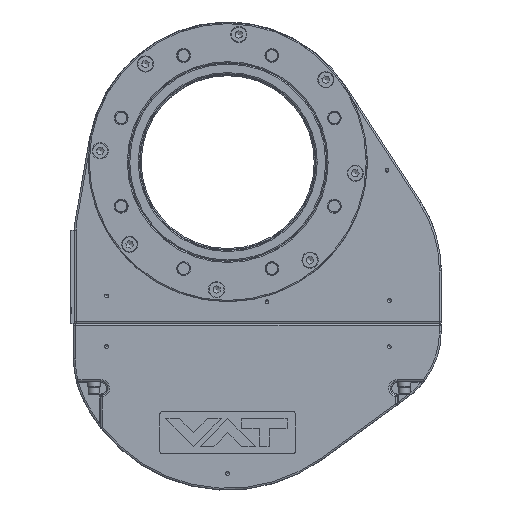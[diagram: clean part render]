
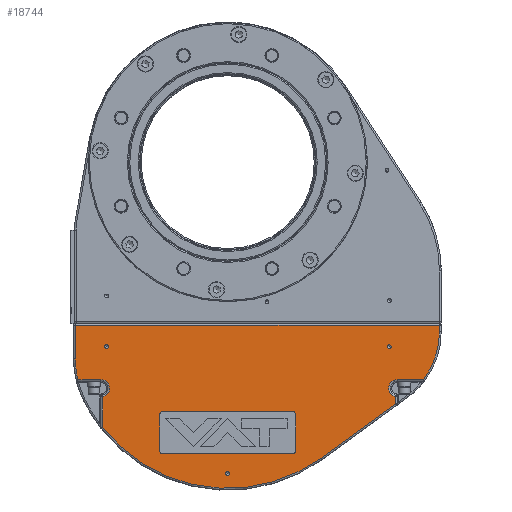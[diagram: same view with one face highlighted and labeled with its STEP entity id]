
A CAD part, top view. The second image highlights one B-rep face of the part: STEP entity #18744.
In plain terms, the highlighted planar face has unit normal (0, 0, 1) as drawn and (0, 0, -1) by its records, which use the part's own axes.
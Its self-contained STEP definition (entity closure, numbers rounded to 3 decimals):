
#10239=LINE('',#73633,#13104);
#10240=LINE('',#73636,#13105);
#10241=LINE('',#73638,#13106);
#10242=LINE('',#73642,#13107);
#10243=LINE('',#73646,#13108);
#10244=LINE('',#73650,#13109);
#10245=LINE('',#73652,#13110);
#10246=LINE('',#73656,#13111);
#13104=VECTOR('',#57587,1.);
#13105=VECTOR('',#57588,1.);
#13106=VECTOR('',#57589,1.);
#13107=VECTOR('',#57592,1.);
#13108=VECTOR('',#57595,1.);
#13109=VECTOR('',#57598,1.);
#13110=VECTOR('',#57599,1.);
#13111=VECTOR('',#57602,1.);
#16454=FACE_BOUND('',#24492,.T.);
#16455=FACE_BOUND('',#24493,.T.);
#16456=FACE_BOUND('',#24494,.T.);
#16457=FACE_BOUND('',#24495,.T.);
#18744=ADVANCED_FACE('',(#16454,#16455,#16456,#16457),#20441,.T.);
#20441=PLANE('',#50142);
#24492=EDGE_LOOP('',(#31954,#31955,#31956,#31957,#31958,#31959,#31960,#31961,
#31962,#31963,#31964,#31965,#31966));
#24493=EDGE_LOOP('',(#31967));
#24494=EDGE_LOOP('',(#31968));
#24495=EDGE_LOOP('',(#31969));
#31954=ORIENTED_EDGE('',*,*,#43870,.T.);
#31955=ORIENTED_EDGE('',*,*,#43871,.T.);
#31956=ORIENTED_EDGE('',*,*,#43872,.T.);
#31957=ORIENTED_EDGE('',*,*,#43873,.T.);
#31958=ORIENTED_EDGE('',*,*,#43874,.T.);
#31959=ORIENTED_EDGE('',*,*,#43875,.T.);
#31960=ORIENTED_EDGE('',*,*,#43876,.T.);
#31961=ORIENTED_EDGE('',*,*,#43877,.T.);
#31962=ORIENTED_EDGE('',*,*,#43878,.T.);
#31963=ORIENTED_EDGE('',*,*,#43879,.T.);
#31964=ORIENTED_EDGE('',*,*,#43880,.T.);
#31965=ORIENTED_EDGE('',*,*,#43881,.T.);
#31966=ORIENTED_EDGE('',*,*,#43882,.T.);
#31967=ORIENTED_EDGE('',*,*,#43883,.T.);
#31968=ORIENTED_EDGE('',*,*,#43884,.T.);
#31969=ORIENTED_EDGE('',*,*,#43885,.T.);
#39122=VERTEX_POINT('',#73634);
#39123=VERTEX_POINT('',#73635);
#39124=VERTEX_POINT('',#73637);
#39125=VERTEX_POINT('',#73639);
#39126=VERTEX_POINT('',#73641);
#39127=VERTEX_POINT('',#73643);
#39128=VERTEX_POINT('',#73645);
#39129=VERTEX_POINT('',#73647);
#39130=VERTEX_POINT('',#73649);
#39131=VERTEX_POINT('',#73651);
#39132=VERTEX_POINT('',#73653);
#39133=VERTEX_POINT('',#73655);
#39134=VERTEX_POINT('',#73657);
#39135=VERTEX_POINT('',#73660);
#39136=VERTEX_POINT('',#73662);
#39137=VERTEX_POINT('',#73664);
#43870=EDGE_CURVE('',#39122,#39123,#10239,.T.);
#43871=EDGE_CURVE('',#39123,#39124,#10240,.T.);
#43872=EDGE_CURVE('',#39124,#39125,#10241,.T.);
#43873=EDGE_CURVE('',#39125,#39126,#47245,.T.);
#43874=EDGE_CURVE('',#39126,#39127,#10242,.T.);
#43875=EDGE_CURVE('',#39127,#39128,#47246,.T.);
#43876=EDGE_CURVE('',#39128,#39129,#10243,.T.);
#43877=EDGE_CURVE('',#39129,#39130,#47247,.T.);
#43878=EDGE_CURVE('',#39130,#39131,#10244,.T.);
#43879=EDGE_CURVE('',#39131,#39132,#10245,.T.);
#43880=EDGE_CURVE('',#39132,#39133,#47248,.T.);
#43881=EDGE_CURVE('',#39133,#39134,#10246,.T.);
#43882=EDGE_CURVE('',#39134,#39122,#47249,.T.);
#43883=EDGE_CURVE('',#39135,#39135,#47250,.T.);
#43884=EDGE_CURVE('',#39136,#39136,#47251,.T.);
#43885=EDGE_CURVE('',#39137,#39137,#47252,.T.);
#47245=CIRCLE('',#50134,78.5);
#47246=CIRCLE('',#50135,7.5);
#47247=CIRCLE('',#50136,137.8);
#47248=CIRCLE('',#50137,7.5);
#47249=CIRCLE('',#50138,68.5);
#47250=CIRCLE('',#50139,1.65);
#47251=CIRCLE('',#50140,1.65);
#47252=CIRCLE('',#50141,1.65);
#50134=AXIS2_PLACEMENT_3D('',#73640,#57590,#57591);
#50135=AXIS2_PLACEMENT_3D('',#73644,#57593,#57594);
#50136=AXIS2_PLACEMENT_3D('',#73648,#57596,#57597);
#50137=AXIS2_PLACEMENT_3D('',#73654,#57600,#57601);
#50138=AXIS2_PLACEMENT_3D('',#73658,#57603,#57604);
#50139=AXIS2_PLACEMENT_3D('',#73659,#57605,#57606);
#50140=AXIS2_PLACEMENT_3D('',#73661,#57607,#57608);
#50141=AXIS2_PLACEMENT_3D('',#73663,#57609,#57610);
#50142=AXIS2_PLACEMENT_3D('',#73665,#57611,#57612);
#57587=DIRECTION('',(0.,1.,0.));
#57588=DIRECTION('',(1.,0.,0.));
#57589=DIRECTION('',(0.,-1.,0.));
#57590=DIRECTION('',(0.,0.,-1.));
#57591=DIRECTION('',(-1.,0.,0.));
#57592=DIRECTION('',(-1.,0.,0.));
#57593=DIRECTION('',(0.,0.,1.));
#57594=DIRECTION('',(-1.,0.,0.));
#57595=DIRECTION('',(0.,-1.,0.));
#57596=DIRECTION('',(0.,0.,-1.));
#57597=DIRECTION('',(-1.,0.,0.));
#57598=DIRECTION('',(-0.809,0.588,0.));
#57599=DIRECTION('',(0.,1.,0.));
#57600=DIRECTION('',(0.,0.,1.));
#57601=DIRECTION('',(-1.,0.,0.));
#57602=DIRECTION('',(-1.,0.,0.));
#57603=DIRECTION('',(0.,0.,-1.));
#57604=DIRECTION('',(-1.,0.,0.));
#57605=DIRECTION('',(0.,0.,1.));
#57606=DIRECTION('',(1.,0.,0.));
#57607=DIRECTION('',(0.,0.,1.));
#57608=DIRECTION('',(1.,0.,0.));
#57609=DIRECTION('',(0.,0.,1.));
#57610=DIRECTION('',(1.,0.,0.));
#57611=DIRECTION('',(0.,0.,-1.));
#57612=DIRECTION('',(-1.,0.,0.));
#73633=CARTESIAN_POINT('',(-183.5,-5.,0.));
#73634=CARTESIAN_POINT('',(-183.5,-7.107,0.));
#73635=CARTESIAN_POINT('',(-183.5,-1.5,0.));
#73636=CARTESIAN_POINT('',(0.,-1.5,0.));
#73637=CARTESIAN_POINT('',(132.,-1.5,0.));
#73638=CARTESIAN_POINT('',(132.,-5.,0.));
#73639=CARTESIAN_POINT('',(132.,-30.578,0.));
#73640=CARTESIAN_POINT('',(53.5,-30.578,0.));
#73641=CARTESIAN_POINT('',(129.927,-48.5,0.));
#73642=CARTESIAN_POINT('',(110.,-48.5,0.));
#73643=CARTESIAN_POINT('',(110.,-48.5,0.));
#73644=CARTESIAN_POINT('',(110.,-56.,0.));
#73645=CARTESIAN_POINT('',(108.5,-63.348,0.));
#73646=CARTESIAN_POINT('',(108.5,-89.951,0.));
#73647=CARTESIAN_POINT('',(108.5,-89.951,0.));
#73648=CARTESIAN_POINT('',(0.,-5.,0.));
#73649=CARTESIAN_POINT('',(-80.997,-116.483,0.));
#73650=CARTESIAN_POINT('',(-80.997,-116.483,0.));
#73651=CARTESIAN_POINT('',(-145.5,-69.618,0.));
#73652=CARTESIAN_POINT('',(-145.5,-63.348,0.));
#73653=CARTESIAN_POINT('',(-145.5,-63.348,0.));
#73654=CARTESIAN_POINT('',(-147.,-56.,0.));
#73655=CARTESIAN_POINT('',(-147.,-48.5,0.));
#73656=CARTESIAN_POINT('',(-169.579,-48.5,0.));
#73657=CARTESIAN_POINT('',(-169.579,-48.5,0.));
#73658=CARTESIAN_POINT('',(-115.,-7.107,0.));
#73659=CARTESIAN_POINT('',(105.,-20.,0.));
#73660=CARTESIAN_POINT('',(106.65,-20.,0.));
#73661=CARTESIAN_POINT('',(0.,-130.,0.));
#73662=CARTESIAN_POINT('',(1.65,-130.,0.));
#73663=CARTESIAN_POINT('',(-140.,-20.,0.));
#73664=CARTESIAN_POINT('',(-138.35,-20.,0.));
#73665=CARTESIAN_POINT('',(0.,-5.,0.));
